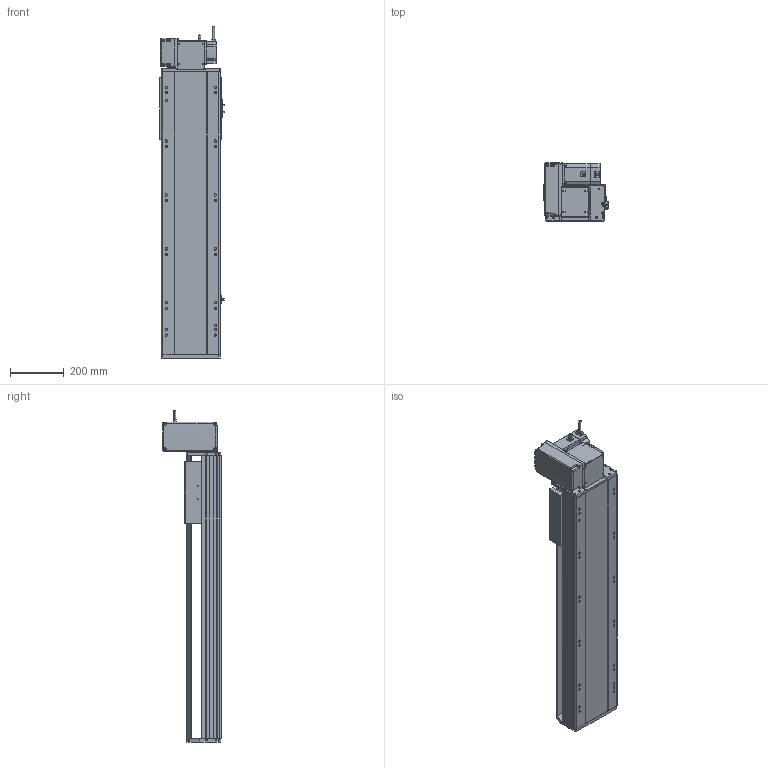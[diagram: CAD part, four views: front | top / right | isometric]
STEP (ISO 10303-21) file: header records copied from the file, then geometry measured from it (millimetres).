
FILE_DESCRIPTION (( 'STEP AP214' ), '1' );
FILE_NAME ('RTB22S-XX-700-LW-M75-C4.STEP', '2025-12-12T05:53:23', ( '' ), ( '' ), 'SwSTEP 2.0', 'SolidWorks 2018', '' );
FILE_SCHEMA (( 'AUTOMOTIVE_DESIGN' ));
Length unit declared in the file: millimetre
Products named in the file (14): RTB22S-L-004賑釱^RTB22S-XX-XX-LW-M75-C4; RTB22S-GY-018P^RTB22S-LW-々湍釱蚾饜_RTB22S-XX-XX-LW-M75-C4; RTB22S-GY-014--々湍釱^RTB22S-LW-々湍釱蚾饜_RTB22S-XX-XX-LW-M75-C4; RTB22S-GY-007奻裔^RTB22S-XX-XX-LW-M75-C4; OMRON EE-SX672 传感器^RTB22S-XX-XX-LW-M75-C4; RTB22S-LW-々湍釱蚾饜^RTB22S-XX-XX-LW-M75-C4; RTH22-GY-013外置感应片^RTB22S-XX-XX-LW-M75-C4; RTB22S-GY-005P^RTB22S-LW-々湍釱蚾饜_RTB22S-XX-XX-LW-M75-C4; RTB22S-XX-700-LW-M75-C4; RTB22S-GY-008-M75--萇儂啣^RTB22S-LW-々湍釱蚾饜_RTB22S-XX-XX-LW-M75-C4; RTB22S-L-011菁釱^RTB22S-XX-XX-LW-M75-C4; RTB22S-GY-001耜裔^RTB22S-XX-XX-LW-M75-C4; RTB22S-GY-017P^RTB22S-LW-々湍釱蚾饜_RTB22S-XX-XX-LW-M75-C4; 750W萇儂^RTB22S-XX-XX-LW-M75-C4
Assembly tree (16 placements, depth 3):
  RTB22S-XX-700-LW-M75-C4
    RTB22S-L-011菁釱^RTB22S-XX-XX-LW-M75-C4
    RTB22S-GY-001耜裔^RTB22S-XX-XX-LW-M75-C4
    750W萇儂^RTB22S-XX-XX-LW-M75-C4
    RTB22S-GY-007奻裔^RTB22S-XX-XX-LW-M75-C4
    RTB22S-L-004賑釱^RTB22S-XX-XX-LW-M75-C4
    RTH22-GY-013外置感应片^RTB22S-XX-XX-LW-M75-C4
    OMRON EE-SX672 传感器^RTB22S-XX-XX-LW-M75-C4  x3
    RTB22S-LW-々湍釱蚾饜^RTB22S-XX-XX-LW-M75-C4
      RTB22S-GY-014--々湍釱^RTB22S-LW-々湍釱蚾饜_RTB22S-XX-XX-LW-M75-C4
      RTB22S-GY-017P^RTB22S-LW-々湍釱蚾饜_RTB22S-XX-XX-LW-M75-C4  x2
      RTB22S-GY-005P^RTB22S-LW-々湍釱蚾饜_RTB22S-XX-XX-LW-M75-C4
      RTB22S-GY-008-M75--萇儂啣^RTB22S-LW-々湍釱蚾饜_RTB22S-XX-XX-LW-M75-C4
      RTB22S-GY-018P^RTB22S-LW-々湍釱蚾饜_RTB22S-XX-XX-LW-M75-C4
Bounding box: 238.5 x 215.5 x 1232.2 mm (x, y, z)
Volume: 17792986.9 mm3; surface area: 1867191.3 mm2
Topology: 15 solids, 15 shells, 1947 faces, 5286 edges, 3392 vertices
Faces by surface type: plane 911, cylinder 598, bspline 296, cone 130, sphere 8, torus 4
Entity records: 51452 total; most frequent: CARTESIAN_POINT 14876, ORIENTED_EDGE 7376, DIRECTION 7062, EDGE_CURVE 3688, AXIS2_PLACEMENT_3D 2478, VERTEX_POINT 2396, LINE 2106, VECTOR 2106
